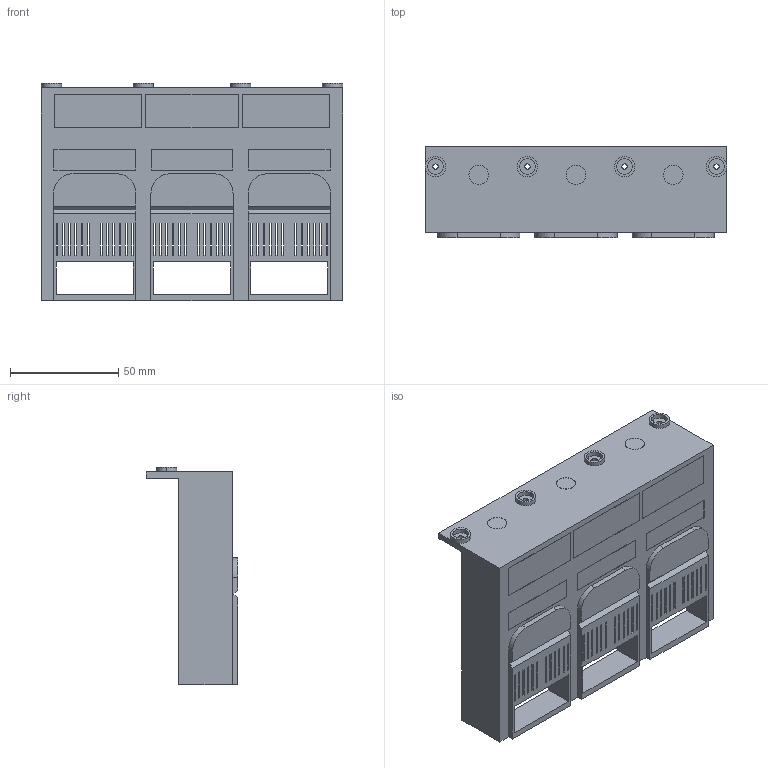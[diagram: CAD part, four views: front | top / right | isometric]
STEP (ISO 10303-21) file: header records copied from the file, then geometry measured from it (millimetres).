
FILE_DESCRIPTION (( 'STEP AP214' ), '1' );
FILE_NAME ('Êðûøêà êëåììíàÿ OptiMat D400, D630.STEP', '2023-04-03T03:22:19', ( '' ), ( '' ), 'SwSTEP 2.0', 'SolidWorks 2018', '' );
FILE_SCHEMA (( 'AUTOMOTIVE_DESIGN' ));
Length unit declared in the file: millimetre
Products named in the file (1): Êðûøêà êëåììíàÿ OptiMat D400, D630
Bounding box: 139.6 x 42.3 x 100.5 mm (x, y, z)
Volume: 157986.9 mm3; surface area: 68335 mm2
Topology: 1 solids, 1 shells, 274 faces, 765 edges, 510 vertices
Faces by surface type: plane 238, cylinder 36
Entity records: 8887 total; most frequent: CARTESIAN_POINT 1550, ORIENTED_EDGE 1530, DIRECTION 1387, EDGE_CURVE 765, VECTOR 693, LINE 693, VERTEX_POINT 510, EDGE_LOOP 377
